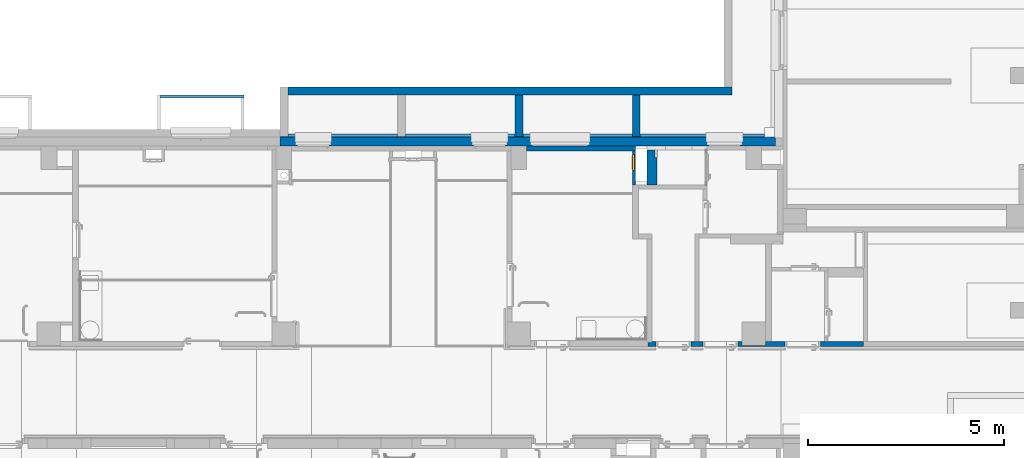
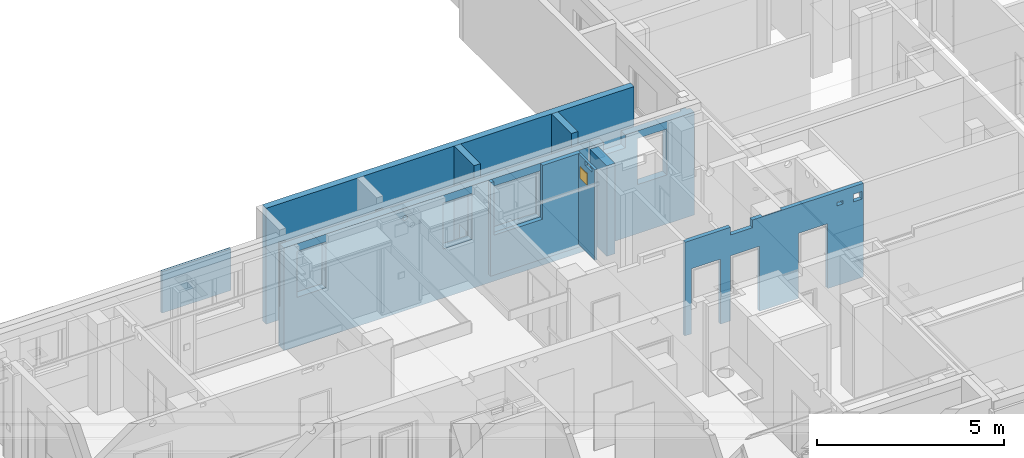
# One storey, part 27 of 84: 9 walls, 1 window, 18 openings.
"""IFC4 building model written with IfcOpenShell, lengths in metres."""

from ifc_helpers import new_model, entity, si_unit, converted_unit, derived_unit, frame, frame_2d, origin, origin_with_axes, place, context, subcontext, project, spatial, polyline, rectangle, outline, extrude, clip, bounded_halfspace, faceted_brep, source, transform, mapped, material, layer, layer_set, layer_usage, element, fill, save


model = new_model("IFC4")

# Units and contexts
model_context = context("Model", 3, precision=1e-05, world=origin())
body_context = subcontext(model_context, "Body", "Model", "MODEL_VIEW")
ifc_project = project(units=[si_unit("LENGTHUNIT", "METRE"), si_unit("AREAUNIT", "SQUARE_METRE"), si_unit("VOLUMEUNIT", "CUBIC_METRE"), si_unit("MASSUNIT", "GRAM", prefix="KILO"), converted_unit("PLANEANGLEUNIT", "DEGREE", entity("IfcPlaneAngleMeasure", 0.0174532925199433), si_unit("PLANEANGLEUNIT", "RADIAN"), dimensions=[0, 0, 0, 0, 0, 0, 0]), derived_unit("THERMALTRANSMITTANCEUNIT", [(si_unit("POWERUNIT", "WATT"), 1), (si_unit("THERMODYNAMICTEMPERATUREUNIT", "KELVIN"), -1), (si_unit("LENGTHUNIT", "METRE"), -2)]), derived_unit("VOLUMETRICFLOWRATEUNIT", [(si_unit("LENGTHUNIT", "METRE"), 3), (converted_unit("TIMEUNIT", "hour", entity("IfcTimeMeasure", 3600.0), si_unit("TIMEUNIT", "SECOND"), dimensions=[0, 0, 1, 0, 0, 0, 0]), -1), (si_unit("LENGTHUNIT", "METRE"), -1)])], contexts=[model_context])

# Site, building, storey
site_placement = place(None, origin())
site = spatial("IfcSite", under=ifc_project, at=site_placement, Name="3. ASŘ", CompositionType="ELEMENT")
building_placement = place(site_placement, origin())
building = spatial("IfcBuilding", under=site, at=building_placement, Name="Pavilon C", CompositionType="ELEMENT")
storey_placement = place(building_placement, frame((0.0, 0.0, -3.3)))
storey = spatial("IfcBuildingStorey", under=building, at=storey_placement, Name="Půdorys 1.PP", CompositionType="ELEMENT", Elevation=-3.3)

# Wall, opening
ifc_material_1 = material(Name="ZELEZOBETONOVÁ KCE")
ifc_layer_1 = layer(ifc_material_1, 0.2)
ifc_layer_set_1 = layer_set([ifc_layer_1])
ifc_layer_usage_1 = layer_usage(ifc_layer_set_1, "AXIS2", "POSITIVE", -0.1)
wall_1_placement = place(storey_placement, frame((18.1, 15.245, -0.4), z_axis=(0.0, 0.0, 1.0), x_axis=(0.0, 1.0, 0.0)))
wall_1 = element("IfcWall", 1, at=wall_1_placement, inside=storey, material=ifc_layer_usage_1, Name="ZELEZOBETONOVÁ KCE", context=body_context, shape_type="SweptSolid", body=[
    extrude(rectangle(XDim=1.06, YDim=0.2, at=frame_2d((0.53, 0.1), x_axis=(1.0, 0.0))), origin_with_axes(), (0.0, 0.0, 1.0), 3.78),
])
opening_1_placement = place(wall_1_placement, frame((0.780000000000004, 0.2, 0.8), z_axis=(0.0, -1.0, 0.0), x_axis=(0.0, 0.0, 1.0)))
element("IfcOpeningElement", 2, at=opening_1_placement, cuts=wall_1, Name="Prostup stěnou", ObjectType="Opening", context=body_context, shape_type="SweptSolid", body=[
    extrude(outline(polyline([(0.0, 0.4), (0.6, 0.4), (0.6, 0.0), (0.0, 0.0), (0.0, 0.4)])), origin_with_axes(), (0.0, 0.0, 1.0), 0.2),
])

# Wall
ifc_material_2 = material(Name="ZELEZOBETONOVÁ KCE")
ifc_layer_2 = layer(ifc_material_2, 0.2)
ifc_layer_set_2 = layer_set([ifc_layer_2])
ifc_layer_usage_2 = layer_usage(ifc_layer_set_2, "AXIS2", "POSITIVE", -0.1)
wall_2_placement = place(storey_placement, frame((21.1, 15.245, -0.4), z_axis=(0.0, 0.0, 1.0), x_axis=(0.0, 1.0, 0.0)))
element("IfcWall", 3, at=wall_2_placement, inside=storey, material=ifc_layer_usage_2, Name="ZELEZOBETONOVÁ KCE", context=body_context, shape_type="SweptSolid", body=[
    extrude(rectangle(XDim=1.06, YDim=0.2, at=frame_2d((0.53, 0.1), x_axis=(1.0, 0.0))), origin_with_axes(), (0.0, 0.0, 1.0), 3.78),
])

# Wall, openings
ifc_material_3 = material(Name="ZELEZOBETONOVÁ KCE")
ifc_layer_3 = layer(ifc_material_3, 0.200000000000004)
ifc_material_4 = material(Name="LIGNOPOR")
ifc_layer_4 = layer(ifc_material_4, 0.0249999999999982)
ifc_material_5 = material(Name="PÓROBETONOVÉ ZDIVO")
ifc_layer_5 = layer(ifc_material_5, 0.08)
ifc_layer_set_3 = layer_set([ifc_layer_3, ifc_layer_4, ifc_layer_5])
ifc_layer_usage_3 = layer_usage(ifc_layer_set_3, "AXIS2", "POSITIVE", 0.0)
wall_3_placement = place(storey_placement, frame((11.9, 15.0, -0.4), z_axis=(0.0, 0.0, 1.0), x_axis=(1.0, -1.43793628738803e-16, 0.0)))
wall_3 = element("IfcWall", 4, at=wall_3_placement, inside=storey, material=ifc_layer_usage_3, Name="ZELEZOBETONOVÁ KCE", context=body_context, shape_type="Clipping", body=[
    clip(clip(extrude(outline(polyline([(-2.61559086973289e-31, 1.81898940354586e-15), (12.65, 1.81898940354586e-15), (12.65, 0.200000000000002), (12.625, 0.200000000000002), (12.625, 0.225), (12.545, 0.225), (12.545, 0.305), (-4.38570567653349e-17, 0.305), (-2.61559086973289e-31, 1.81898940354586e-15)])), frame((2.61559086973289e-31, -1.81898940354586e-15, 0.0), z_axis=(0.0, 0.0, 1.0), x_axis=(1.0, 0.0, 0.0)), (0.0, 0.0, 1.0), 3.35), bounded_halfspace(frame((7.525, 0.214999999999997, 0.4), z_axis=(0.0, 0.0, 1.0), x_axis=(-1.0, -1.43793628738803e-16, 0.0)), True, origin_with_axes(), polyline([(12.625, 0.224999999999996), (12.375, 0.224999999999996), (-3.23535664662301e-17, 0.224999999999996), (-2.87587257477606e-17, 0.2), (12.625, 0.199999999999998), (12.625, 0.224999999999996)]))), bounded_halfspace(frame((5.46388888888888, 0.269444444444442, 1.3), z_axis=(0.0, 0.0, -1.0), x_axis=(-1.43793628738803e-16, 1.0, 0.0)), True, origin_with_axes(), polyline([(12.375, 0.224999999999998), (12.375, 0.304999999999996), (9.2, 0.304999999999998), (9.2, 0.244999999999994), (9.0, 0.244999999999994), (9.0, 0.304999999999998), (6.19999999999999, 0.304999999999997), (6.19999999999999, 0.244999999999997), (5.99999999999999, 0.244999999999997), (5.99999999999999, 0.304999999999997), (3.2, 0.304999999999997), (3.2, 0.244999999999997), (3.0, 0.244999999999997), (3.0, 0.304999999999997), (0.2, 0.304999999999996), (0.2, 0.244999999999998), (-3.52294390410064e-17, 0.244999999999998), (-3.23535664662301e-17, 0.224999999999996), (12.375, 0.224999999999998)]))),
])
opening_2_placement = place(wall_3_placement, frame((1.3, 0.2, 1.6), z_axis=(0.0, -1.0, 0.0), x_axis=(0.0, 0.0, 1.0)))
element("IfcOpeningElement", 5, at=opening_2_placement, cuts=wall_3, Name="Okenní otvor", ObjectType="Opening", context=body_context, shape_type="SweptSolid", body=[
    extrude(outline(polyline([(0.0, 0.9), (1.5, 0.9), (1.5, 0.0), (0.0, 0.0), (0.0, 0.9)])), origin_with_axes(), (0.0, 0.0, 1.0), 0.2),
    extrude(outline(polyline([(0.0, 0.9), (1.5, 0.9), (1.5, 0.0), (0.0, 0.0), (0.0, 0.9)])), frame((0.0, 0.0, -0.0249999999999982), z_axis=(0.0, 0.0, 1.0), x_axis=(1.0, 0.0, 0.0)), (0.0, 0.0, 1.0), 0.0249999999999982),
    extrude(outline(polyline([(0.0, 0.9), (1.5, 0.9), (1.5, 0.0), (0.0, 0.0), (0.0, 0.9)])), frame((0.0, 0.0, -0.104999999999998), z_axis=(0.0, 0.0, 1.0), x_axis=(1.0, 0.0, 0.0)), (0.0, 0.0, 1.0), 0.08),
])
opening_3_placement = place(wall_3_placement, frame((5.8, 0.200000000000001, 1.6), z_axis=(0.0, -1.0, 0.0), x_axis=(0.0, 0.0, 1.0)))
element("IfcOpeningElement", 6, at=opening_3_placement, cuts=wall_3, Name="Okenní otvor", ObjectType="Opening", context=body_context, shape_type="SweptSolid", body=[
    extrude(outline(polyline([(0.0, 0.9), (1.5, 0.9), (1.5, 0.0), (0.0, 0.0), (0.0, 0.9)])), origin_with_axes(), (0.0, 0.0, 1.0), 0.2),
    extrude(outline(polyline([(0.0, 0.9), (1.5, 0.9), (1.5, 0.0), (0.0, 0.0), (0.0, 0.9)])), frame((0.0, 0.0, -0.0249999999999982), z_axis=(0.0, 0.0, 1.0), x_axis=(1.0, 0.0, 0.0)), (0.0, 0.0, 1.0), 0.0249999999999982),
    extrude(outline(polyline([(0.0, 0.9), (1.5, 0.9), (1.5, 0.0), (0.0, 0.0), (0.0, 0.9)])), frame((0.0, 0.0, -0.104999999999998), z_axis=(0.0, 0.0, 1.0), x_axis=(1.0, 0.0, 0.0)), (0.0, 0.0, 1.0), 0.08),
])
opening_4_placement = place(wall_3_placement, frame((7.9, 0.199999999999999, 1.6), z_axis=(0.0, -1.0, 0.0), x_axis=(0.0, 0.0, 1.0)))
element("IfcOpeningElement", 7, at=opening_4_placement, cuts=wall_3, Name="Okenní otvor", ObjectType="Opening", context=body_context, shape_type="SweptSolid", body=[
    extrude(outline(polyline([(0.0, 1.5), (1.5, 1.5), (1.5, 0.0), (0.0, 0.0), (0.0, 1.5)])), origin_with_axes(), (0.0, 0.0, 1.0), 0.2),
    extrude(outline(polyline([(0.0, 1.5), (1.5, 1.5), (1.5, 0.0), (0.0, 0.0), (0.0, 1.5)])), frame((0.0, 0.0, -0.0249999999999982), z_axis=(0.0, 0.0, 1.0), x_axis=(1.0, 0.0, 0.0)), (0.0, 0.0, 1.0), 0.0249999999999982),
    extrude(outline(polyline([(0.0, 1.5), (1.5, 1.5), (1.5, 0.0), (0.0, 0.0), (0.0, 1.5)])), frame((0.0, 0.0, -0.104999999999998), z_axis=(0.0, 0.0, 1.0), x_axis=(1.0, 0.0, 0.0)), (0.0, 0.0, 1.0), 0.08),
])
opening_5_placement = place(wall_3_placement, frame((3.81189706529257, 0.304999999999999, 2.95), z_axis=(0.0, -1.0, 0.0), x_axis=(0.0, 0.0, 1.0)))
element("IfcOpeningElement", 8, at=opening_5_placement, cuts=wall_3, Name="Prostup stěnou", ObjectType="Opening", context=body_context, shape_type="SweptSolid", body=[
    extrude(outline(polyline([(0.0749999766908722, 0.15), (0.0828396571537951, 0.14958913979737), (0.0905933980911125, 0.148361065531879), (0.0981762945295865, 0.146329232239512), (0.105505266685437, 0.14351590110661), (0.112500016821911, 0.139951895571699), (0.119083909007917, 0.135676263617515), (0.125184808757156, 0.13073584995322), (0.130735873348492, 0.125184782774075), (0.135676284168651, 0.119083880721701), (0.13995191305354, 0.112499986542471), (0.143515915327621, 0.105505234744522), (0.146329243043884, 0.0981762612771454), (0.148361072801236, 0.0905933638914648), (0.149589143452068, 0.0828396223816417), (0.149999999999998, 0.0749999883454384), (0.149589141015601, 0.0671603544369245), (0.148361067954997, 0.0594066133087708), (0.146329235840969, 0.0518237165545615), (0.143515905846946, 0.0444947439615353), (0.139951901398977, 0.0374999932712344), (0.135676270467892, 0.0309161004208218), (0.130735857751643, 0.024815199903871), (0.1251847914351, 0.0192641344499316), (0.119083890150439, 0.0143237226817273), (0.112499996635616, 0.0100480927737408), (0.105505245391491, 0.00648408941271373), (0.0981762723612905, 0.00367076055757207), (0.0905933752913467, 0.0016389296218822), (0.0828396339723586, 0.000410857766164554), (0.0749999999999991, 0.0), (0.0671603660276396, 0.000410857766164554), (0.0594066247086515, 0.0016389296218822), (0.0518237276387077, 0.00367076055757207), (0.044494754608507, 0.00648408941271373), (0.0375000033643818, 0.0100480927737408), (0.0309161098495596, 0.0143237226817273), (0.0248152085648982, 0.0192641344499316), (0.0192641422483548, 0.024815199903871), (0.0143237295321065, 0.0309161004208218), (0.010048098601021, 0.0374999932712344), (0.00648409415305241, 0.0444947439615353), (0.00367076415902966, 0.0518237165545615), (0.00163893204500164, 0.0594066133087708), (0.000410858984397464, 0.0671603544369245), (0.0, 0.0749999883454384), (0.000410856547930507, 0.0828396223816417), (0.00163892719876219, 0.0905933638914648), (0.00367075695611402, 0.0981762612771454), (0.00648408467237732, 0.105505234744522), (0.0100480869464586, 0.112499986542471), (0.0143237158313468, 0.119083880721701), (0.0192641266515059, 0.125184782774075), (0.0248151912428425, 0.13073584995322), (0.0309160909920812, 0.135676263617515), (0.0374999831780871, 0.139951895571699), (0.0444947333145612, 0.14351590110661), (0.0518237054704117, 0.146329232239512), (0.0594066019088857, 0.148361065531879), (0.0671603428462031, 0.14958913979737), (0.0749999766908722, 0.15)])), origin_with_axes(), (0.0, 0.0, 1.0), 0.08),
    extrude(outline(polyline([(0.0749999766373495, 0.15), (0.0828396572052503, 0.149589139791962), (0.0905933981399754, 0.148361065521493), (0.0981762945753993, 0.146329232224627), (0.105505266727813, 0.143515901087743), (0.112500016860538, 0.139951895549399), (0.119083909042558, 0.135676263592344), (0.12518480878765, 0.130735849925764), (0.130735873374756, 0.125184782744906), (0.135676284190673, 0.119083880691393), (0.13995191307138, 0.112499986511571), (0.143515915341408, 0.105505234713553), (0.146329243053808, 0.0981762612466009), (0.148361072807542, 0.0905933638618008), (0.149589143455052, 0.0828396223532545), (0.149999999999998, 0.0749999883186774), (0.14958914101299, 0.0671603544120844), (0.148361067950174, 0.0594066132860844), (0.146329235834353, 0.0518237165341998), (0.143515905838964, 0.0444947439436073), (0.139951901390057, 0.0374999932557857), (0.135676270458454, 0.0309161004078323), (0.130735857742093, 0.0248151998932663), (0.125184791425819, 0.0192641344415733), (0.119083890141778, 0.0143237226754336), (0.112499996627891, 0.0100480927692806), (0.105505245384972, 0.00648408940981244), (0.0981762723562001, 0.0036707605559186), (0.0905933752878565, 0.00163892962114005), (0.0828396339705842, 0.000410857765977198), (0.0749999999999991, 0.0), (0.067160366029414, 0.000410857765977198), (0.0594066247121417, 0.00163892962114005), (0.0518237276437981, 0.0036707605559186), (0.0444947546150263, 0.00648408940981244), (0.0375000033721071, 0.0100480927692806), (0.0309161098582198, 0.0143237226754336), (0.0248152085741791, 0.0192641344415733), (0.0192641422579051, 0.0248151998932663), (0.0143237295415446, 0.0309161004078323), (0.0100480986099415, 0.0374999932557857), (0.00648409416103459, 0.0444947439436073), (0.00367076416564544, 0.0518237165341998), (0.00163893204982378, 0.0594066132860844), (0.000410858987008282, 0.0671603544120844), (0.0, 0.0749999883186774), (0.000410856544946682, 0.0828396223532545), (0.00163892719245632, 0.0905933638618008), (0.00367075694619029, 0.0981762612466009), (0.00648408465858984, 0.105505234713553), (0.0100480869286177, 0.112499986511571), (0.0143237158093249, 0.119083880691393), (0.0192641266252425, 0.125184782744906), (0.0248151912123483, 0.130735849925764), (0.0309160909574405, 0.135676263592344), (0.0374999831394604, 0.139951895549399), (0.0444947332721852, 0.143515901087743), (0.0518237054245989, 0.146329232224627), (0.0594066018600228, 0.148361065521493), (0.0671603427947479, 0.149589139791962), (0.0749999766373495, 0.15)])), frame((0.0, 0.0, 0.08), z_axis=(0.0, 0.0, 1.0), x_axis=(1.0, 0.0, 0.0)), (0.0, 0.0, 1.0), 0.0249999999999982),
    extrude(outline(polyline([(0.0749999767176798, 0.15), (0.0828396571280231, 0.149589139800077), (0.0905933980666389, 0.148361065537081), (0.0981762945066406, 0.146329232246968), (0.105505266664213, 0.143515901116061), (0.112500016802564, 0.139951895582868), (0.119083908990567, 0.135676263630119), (0.125184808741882, 0.130735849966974), (0.130735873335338, 0.125184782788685), (0.135676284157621, 0.119083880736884), (0.139951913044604, 0.112499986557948), (0.143515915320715, 0.105505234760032), (0.146329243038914, 0.0981762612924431), (0.148361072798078, 0.0905933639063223), (0.149589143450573, 0.0828396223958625), (0.149999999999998, 0.0749999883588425), (0.149589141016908, 0.0671603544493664), (0.148361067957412, 0.0594066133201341), (0.146329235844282, 0.0518237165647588), (0.143515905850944, 0.0444947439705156), (0.139951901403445, 0.0374999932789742), (0.135676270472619, 0.0309161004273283), (0.130735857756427, 0.0248151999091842), (0.125184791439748, 0.0192641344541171), (0.119083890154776, 0.0143237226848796), (0.112499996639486, 0.0100480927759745), (0.105505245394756, 0.00648408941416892), (0.09817627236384, 0.00367076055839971), (0.0905933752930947, 0.00163892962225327), (0.0828396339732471, 0.000410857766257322), (0.0749999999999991, 0.0), (0.067160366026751, 0.000410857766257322), (0.0594066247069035, 0.00163892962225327), (0.0518237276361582, 0.00367076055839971), (0.0444947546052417, 0.00648408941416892), (0.0375000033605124, 0.0100480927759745), (0.0309161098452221, 0.0143237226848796), (0.0248152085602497, 0.0192641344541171), (0.0192641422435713, 0.0248151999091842), (0.0143237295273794, 0.0309161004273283), (0.0100480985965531, 0.0374999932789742), (0.00648409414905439, 0.0444947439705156), (0.00367076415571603, 0.0518237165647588), (0.00163893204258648, 0.0594066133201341), (0.000410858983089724, 0.0671603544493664), (0.0, 0.0749999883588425), (0.000410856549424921, 0.0828396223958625), (0.00163892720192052, 0.0905933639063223), (0.00367075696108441, 0.0981762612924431), (0.00648408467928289, 0.105505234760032), (0.0100480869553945, 0.112499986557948), (0.0143237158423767, 0.119083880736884), (0.0192641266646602, 0.125184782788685), (0.024815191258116, 0.130735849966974), (0.0309160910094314, 0.135676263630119), (0.0374999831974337, 0.139951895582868), (0.0444947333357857, 0.143515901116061), (0.0518237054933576, 0.146329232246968), (0.0594066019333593, 0.148361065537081), (0.0671603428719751, 0.149589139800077), (0.0749999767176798, 0.15)])), frame((0.0, 0.0, 0.104999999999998), z_axis=(0.0, 0.0, 1.0), x_axis=(1.0, 0.0, 0.0)), (0.0, 0.0, 1.0), 0.2),
])
opening_6_placement = place(wall_3_placement, frame((11.8, 0.200000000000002, 1.6), z_axis=(0.0, -1.0, 0.0), x_axis=(0.0, 0.0, 1.0)))
element("IfcOpeningElement", 9, at=opening_6_placement, cuts=wall_3, Name="Okenní otvor", ObjectType="Opening", context=body_context, shape_type="SweptSolid", body=[
    extrude(outline(polyline([(0.0, 0.9), (1.5, 0.9), (1.5, 0.0), (0.0, 0.0), (0.0, 0.9)])), origin_with_axes(), (0.0, 0.0, 1.0), 0.2),
    extrude(outline(polyline([(0.0, 0.9), (1.5, 0.9), (1.5, 0.0), (0.0, 0.0), (0.0, 0.9)])), frame((0.0, 0.0, -0.0249999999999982), z_axis=(0.0, 0.0, 1.0), x_axis=(1.0, 0.0, 0.0)), (0.0, 0.0, 1.0), 0.0249999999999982),
    extrude(outline(polyline([(0.0, 0.9), (1.5, 0.9), (1.5, 0.0), (0.0, 0.0), (0.0, 0.9)])), frame((0.0, 0.0, -0.104999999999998), z_axis=(0.0, 0.0, 1.0), x_axis=(1.0, 0.0, 0.0)), (0.0, 0.0, 1.0), 0.08),
])
opening_7_placement = place(wall_3_placement, frame((10.5232682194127, 0.304999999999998, 2.925), z_axis=(0.0, -1.0, 0.0), x_axis=(0.0, 0.0, 1.0)))
element("IfcOpeningElement", 10, at=opening_7_placement, cuts=wall_3, Name="Prostup stěnou", ObjectType="Opening", context=body_context, shape_type="SweptSolid", body=[
    extrude(outline(polyline([(0.0, 0.68), (0.425, 0.68), (0.425, 0.0), (0.0, 0.0), (0.0, 0.68)])), origin_with_axes(), (0.0, 0.0, 1.0), 0.08),
    extrude(outline(polyline([(0.0, 0.68), (0.425, 0.68), (0.425, 0.0), (0.0, 0.0), (0.0, 0.68)])), frame((0.0, 0.0, 0.08), z_axis=(0.0, 0.0, 1.0), x_axis=(1.0, 0.0, 0.0)), (0.0, 0.0, 1.0), 0.0249999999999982),
    extrude(outline(polyline([(0.0, 0.68), (0.425, 0.68), (0.425, 0.0), (0.0, 0.0), (0.0, 0.68)])), frame((0.0, 0.0, 0.104999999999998), z_axis=(0.0, 0.0, 1.0), x_axis=(1.0, 0.0, 0.0)), (0.0, 0.0, 1.0), 0.2),
])

# Wall, opening
ifc_material_6 = material(Name="ZDIVO Z CDm")
ifc_layer_6 = layer(ifc_material_6, 0.125)
ifc_layer_set_4 = layer_set([ifc_layer_6])
ifc_layer_usage_4 = layer_usage(ifc_layer_set_4, "AXIS2", "POSITIVE", 0.0)
wall_4_placement = place(storey_placement, frame((20.975, 15.0, -0.1), z_axis=(0.0, 0.0, 1.0), x_axis=(-1.0, 0.0, 0.0)))
wall_4 = element("IfcWall", 11, at=wall_4_placement, inside=storey, material=ifc_layer_usage_4, Name="ZDIVO Z CDm", context=body_context, shape_type="SweptSolid", body=[
    extrude(rectangle(XDim=2.775, YDim=0.125, at=frame_2d((1.3875, 0.0625), x_axis=(1.0, 0.0))), origin_with_axes(), (0.0, 0.0, 1.0), 3.05),
])
opening_8_placement = place(wall_4_placement, frame((2.675, 0.125, 1.3), z_axis=(0.0, -1.0, 0.0), x_axis=(0.0, 0.0, 1.0)))
element("IfcOpeningElement", 12, at=opening_8_placement, cuts=wall_4, Name="Okenní otvor", ObjectType="Opening", context=body_context, shape_type="SweptSolid", body=[
    extrude(outline(polyline([(0.0, 1.5), (1.75, 1.5), (1.75, 0.0), (0.0, 0.0), (0.0, 1.5)])), origin_with_axes(), (0.0, 0.0, 1.0), 0.125),
])

# Walls
ifc_material_7 = material(Name="ZELEZOBETONOVÁ KCE")
ifc_layer_7 = layer(ifc_material_7, 0.2)
ifc_layer_set_5 = layer_set([ifc_layer_7])
ifc_layer_usage_5 = layer_usage(ifc_layer_set_5, "AXIS2", "POSITIVE", 0.0)
wall_5_placement = place(storey_placement, frame((12.1, 16.305, -0.4), z_axis=(0.0, 0.0, 1.0), x_axis=(1.0, -3.20668030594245e-16, 0.0)))
element("IfcWall", 13, at=wall_5_placement, inside=storey, material=ifc_layer_usage_5, Name="ZELEZOBETONOVÁ KCE", context=body_context, shape_type="SweptSolid", body=[
    extrude(rectangle(XDim=11.345, YDim=0.2, at=frame_2d((5.6725, 0.1), x_axis=(1.0, 0.0))), origin_with_axes(), (0.0, 0.0, 1.0), 3.78),
])
ifc_material_8 = material(Name="POHLEDOVY BETON")
ifc_layer_8 = layer(ifc_material_8, 0.08)
ifc_layer_set_6 = layer_set([ifc_layer_8])
ifc_layer_usage_6 = layer_usage(ifc_layer_set_6, "AXIS2", "POSITIVE", 0.0)
wall_6_placement = place(storey_placement, frame((10.98, 16.305, 1.15), z_axis=(0.0, 0.0, 1.0), x_axis=(-1.0, 0.0, 0.0)))
element("IfcWall", 14, at=wall_6_placement, inside=storey, material=ifc_layer_usage_6, Name="STĚNA ANGLICKÉHO DVORKU", context=body_context, shape_type="SweptSolid", body=[
    extrude(rectangle(XDim=2.13, YDim=0.08, at=frame_2d((1.065, 0.04), x_axis=(1.0, 0.0))), origin_with_axes(), (0.0, 0.0, 1.0), 1.35),
])

# Wall, opening
ifc_material_9 = material(Name="SDK - 2 KCE + DVOJITÉ OPLÁŠTĚNÍ")
ifc_layer_9 = layer(ifc_material_9, 0.25)
ifc_layer_set_7 = layer_set([ifc_layer_9])
ifc_layer_usage_7 = layer_usage(ifc_layer_set_7, "AXIS2", "POSITIVE", 0.0)
wall_7_placement = place(storey_placement, frame((21.275, 14.9, 0.0), z_axis=(0.0, 0.0, 1.0), x_axis=(0.0, -1.0, 0.0)))
wall_7 = element("IfcWall", 15, at=wall_7_placement, inside=storey, material=ifc_layer_usage_7, Name="SDK - 2 KCE + DVOJITÉ OPLÁŠTĚNÍ", context=body_context, shape_type="SweptSolid", body=[
    extrude(rectangle(XDim=0.9, YDim=0.25, at=frame_2d((0.45, 0.125), x_axis=(1.0, 0.0))), origin_with_axes(), (0.0, 0.0, 1.0), 2.95),
])
opening_9_placement = place(wall_7_placement, frame((0.200000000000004, 0.25, 1.0), z_axis=(0.0, -1.0, 0.0), x_axis=(0.0, 0.0, 1.0)))
element("IfcOpeningElement", 16, at=opening_9_placement, cuts=wall_7, Name="Stěnová nika", ObjectType="Opening", context=body_context, shape_type="SweptSolid", body=[
    extrude(outline(polyline([(0.0, 0.200000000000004), (0.2, 0.200000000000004), (0.2, 0.0), (0.0, 0.0), (0.0, 0.200000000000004)])), origin_with_axes(), (0.0, 0.0, 1.0), 0.05),
])

# Wall, openings, window
ifc_material_10 = material(Name="SDK ŠACHTOVÁ STĚNA/SDK OPL. S PO")
ifc_layer_10 = layer(ifc_material_10, 0.075)
ifc_layer_set_8 = layer_set([ifc_layer_10])
ifc_layer_usage_8 = layer_usage(ifc_layer_set_8, "AXIS2", "POSITIVE", 0.0)
wall_8_placement = place(storey_placement, frame((20.975, 14.0, 0.0), z_axis=(0.0, 0.0, 1.0), x_axis=(0.0, 1.0, 0.0)))
wall_8 = element("IfcWall", 17, at=wall_8_placement, inside=storey, material=ifc_layer_usage_8, Name="SDK ŠACHTOVÁ STĚNA/SDK OPL. S PO", context=body_context, shape_type="SweptSolid", body=[
    extrude(rectangle(XDim=0.875000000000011, YDim=0.075, at=frame_2d((0.437500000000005, 0.0375), x_axis=(1.0, 0.0))), origin_with_axes(), (0.0, 0.0, 1.0), 2.95),
])
opening_10_placement = place(wall_8_placement, frame((0.775000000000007, 0.075, 2.2), z_axis=(0.0, -1.0, 0.0), x_axis=(0.0, 0.0, 1.0)))
opening_10 = element("IfcOpeningElement", 18, at=opening_10_placement, cuts=wall_8, Name="Okenní otvor", ObjectType="Opening", context=body_context, shape_type="SweptSolid", body=[
    extrude(outline(polyline([(0.0, 0.4), (0.4, 0.4), (0.4, 0.0), (0.0, 0.0), (0.0, 0.4)])), origin_with_axes(), (0.0, 0.0, 1.0), 0.075),
])
opening_11_placement = place(wall_8_placement, frame((0.514106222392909, 0.075, 2.78), z_axis=(0.0, -1.0, 0.0), x_axis=(0.0, 0.0, 1.0)))
element("IfcOpeningElement", 19, at=opening_11_placement, cuts=wall_8, Name="ZTI", ObjectType="Opening", context=body_context, shape_type="SweptSolid", body=[
    extrude(outline(polyline([(0.0, 0.37), (0.15, 0.37), (0.15, 0.0), (0.0, 0.0), (0.0, 0.37)])), origin_with_axes(), (0.0, 0.0, 1.0), 0.075),
])
shared_shape = source(origin_with_axes(), body_context, "Body", "Brep", [
    faceted_brep([(0.0, 0.06, 0.4), (0.0, 0.06, 4.91096680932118e-19), (0.02, 0.06, 4.91096680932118e-19), (0.02, 0.06, 0.4), (0.0, 0.01, 6.61433067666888e-18), (0.0, 0.0100000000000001, 0.4), (0.02, 0.0100000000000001, 0.4), (0.02, 0.01, 6.61433067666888e-18)], [[[0, 1, 2, 3]], [[4, 5, 6, 7]], [[1, 0, 5, 4]], [[2, 1, 4, 7]], [[3, 2, 7, 6]], [[0, 3, 6, 5]]], orient=[[False], [False], [False], [False], [False], [False]]),
    faceted_brep([(0.38, 0.06, 0.4), (0.38, 0.06, 4.91096680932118e-19), (0.4, 0.06, 4.91096680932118e-19), (0.4, 0.06, 0.4), (0.38, 0.01, 6.61433067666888e-18), (0.38, 0.0100000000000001, 0.4), (0.4, 0.0100000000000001, 0.4), (0.4, 0.01, 6.61433067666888e-18)], [[[0, 1, 2, 3]], [[4, 5, 6, 7]], [[1, 0, 5, 4]], [[2, 1, 4, 7]], [[3, 2, 7, 6]], [[0, 3, 6, 5]]], orient=[[False], [False], [False], [False], [False], [False]]),
    faceted_brep([(0.02, 0.06, 0.02), (0.02, 0.06, 4.91096680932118e-19), (0.38, 0.06, 4.91096680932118e-19), (0.38, 0.06, 0.02), (0.02, 0.01, 6.61433067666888e-18), (0.02, 0.01, 0.02), (0.38, 0.01, 0.02), (0.38, 0.01, 6.61433067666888e-18)], [[[0, 1, 2, 3]], [[4, 5, 6, 7]], [[1, 0, 5, 4]], [[2, 1, 4, 7]], [[3, 2, 7, 6]], [[0, 3, 6, 5]]], orient=[[False], [False], [False], [False], [False], [False]]),
    faceted_brep([(0.02, 0.06, 0.4), (0.02, 0.06, 0.38), (0.38, 0.06, 0.38), (0.38, 0.06, 0.4), (0.02, 0.0100000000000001, 0.38), (0.02, 0.0100000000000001, 0.4), (0.38, 0.0100000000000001, 0.4), (0.38, 0.0100000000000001, 0.38)], [[[0, 1, 2, 3]], [[4, 5, 6, 7]], [[1, 0, 5, 4]], [[2, 1, 4, 7]], [[3, 2, 7, 6]], [[0, 3, 6, 5]]], orient=[[False], [False], [False], [False], [False], [False]]),
    faceted_brep([(0.02, 0.01, 0.38), (0.02, 0.01, 0.02), (0.38, 0.01, 0.02), (0.38, 0.01, 0.38), (0.02, 0.0, 0.02), (0.02, 4.44089209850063e-17, 0.38), (0.38, 4.44089209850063e-17, 0.38), (0.38, 0.0, 0.02)], [[[0, 1, 2, 3]], [[4, 5, 6, 7]], [[1, 0, 5, 4]], [[2, 1, 4, 7]], [[3, 2, 7, 6]], [[0, 3, 6, 5]]], orient=[[False], [False], [False], [False], [False], [False]]),
])
window_placement = place(opening_10_placement, frame((0.0, 3.63797880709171e-15, -0.0100000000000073), z_axis=(1.0, 0.0, 0.0), x_axis=(0.0, 1.0, 1.22464679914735e-16)))
window = element("IfcWindow", 20, at=window_placement, inside=storey, OverallHeight=0.4, OverallWidth=0.4, PartitioningType="USERDEFINED", PredefinedType="WINDOW", context=body_context, shape_type="MappedRepresentation", body=[
    mapped(shared_shape, transform((0.0, 0.0, 0.0), x_axis=(1.0, 0.0, 0.0), y_axis=(0.0, 1.0, 0.0), z_axis=(0.0, 0.0, 1.0), scale=1.0)),
])
fill(opening_10, window)

# Wall, openings
ifc_material_11 = material(Name="SDK - 1 KCE + DVOJITÉ OPLÁŠTĚNÍ")
ifc_layer_11 = layer(ifc_material_11, 0.125)
ifc_layer_set_9 = layer_set([ifc_layer_11])
ifc_layer_usage_9 = layer_usage(ifc_layer_set_9, "AXIS2", "POSITIVE", 0.0)
wall_9_placement = place(storey_placement, frame((21.3, 9.875, -0.1)))
wall_9 = element("IfcWall", 21, at=wall_9_placement, inside=storey, material=ifc_layer_usage_9, Name="SDK - 1 KCE + DVOJITÉ OPLÁŠTĚNÍ", context=body_context, shape_type="SweptSolid", body=[
    extrude(outline(polyline([(0.0, 0.0), (5.5, 0.0), (5.5, 0.125), (0.1, 0.125), (0.1, 0.1), (0.0, 0.1), (0.0, 0.0)])), origin_with_axes(), (0.0, 0.0, 1.0), 3.05),
])
opening_12_placement = place(wall_9_placement, frame((4.4, 0.125, 0.0), z_axis=(0.0, -1.0, 0.0), x_axis=(0.0, 0.0, 1.0)))
element("IfcOpeningElement", 22, at=opening_12_placement, cuts=wall_9, Name="Dveřní otvor", ObjectType="Opening", context=body_context, shape_type="SweptSolid", body=[
    extrude(outline(polyline([(0.0, 0.9), (2.12, 0.9), (2.12, 0.0), (0.0, 0.0), (0.0, 0.9)])), origin_with_axes(), (0.0, 0.0, 1.0), 0.125),
])
opening_13_placement = place(wall_9_placement, frame((1.1, 0.125, 0.0), z_axis=(0.0, -1.0, 0.0), x_axis=(0.0, 0.0, 1.0)))
element("IfcOpeningElement", 23, at=opening_13_placement, cuts=wall_9, Name="Dveřní otvor", ObjectType="Opening", context=body_context, shape_type="SweptSolid", body=[
    extrude(outline(polyline([(0.0, 0.9), (2.12, 0.9), (2.12, 0.0), (0.0, 0.0), (0.0, 0.9)])), origin_with_axes(), (0.0, 0.0, 1.0), 0.125),
])
opening_14_placement = place(wall_9_placement, frame((2.3, 0.125, 0.0), z_axis=(0.0, -1.0, 0.0), x_axis=(0.0, 0.0, 1.0)))
element("IfcOpeningElement", 24, at=opening_14_placement, cuts=wall_9, Name="Dveřní otvor", ObjectType="Opening", context=body_context, shape_type="SweptSolid", body=[
    extrude(outline(polyline([(0.0, 0.9), (2.12, 0.9), (2.12, 0.0), (0.0, 0.0), (0.0, 0.9)])), origin_with_axes(), (0.0, 0.0, 1.0), 0.125),
])
opening_15_placement = place(wall_9_placement, frame((3.0, 0.125, 0.0), z_axis=(0.0, -1.0, 0.0), x_axis=(0.0, 0.0, 1.0)))
element("IfcOpeningElement", 25, at=opening_15_placement, cuts=wall_9, Name="Prostup stěnou", ObjectType="Opening", context=body_context, shape_type="SweptSolid", body=[
    extrude(outline(polyline([(0.0, 0.6), (3.05, 0.6), (3.05, 0.0), (0.0, 0.0), (0.0, 0.6)])), origin_with_axes(), (0.0, 0.0, 1.0), 0.1),
])
opening_16_placement = place(wall_9_placement, frame((2.08068477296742, 0.124999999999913, 2.8), z_axis=(0.0, -1.0, 0.0), x_axis=(0.0, 0.0, 1.0)))
element("IfcOpeningElement", 26, at=opening_16_placement, cuts=wall_9, Name="VZT", ObjectType="Opening", context=body_context, shape_type="SweptSolid", body=[
    extrude(outline(polyline([(0.0, 0.68), (0.25, 0.68), (0.25, 0.0), (0.0, 0.0), (0.0, 0.68)])), origin_with_axes(), (0.0, 0.0, 1.0), 0.125),
])
opening_17_placement = place(wall_9_placement, frame((5.19253208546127, 0.0, 2.55), z_axis=(0.0, 1.0, 0.0), x_axis=(0.0, 0.0, 1.0)))
element("IfcOpeningElement", 27, at=opening_17_placement, cuts=wall_9, Name="VZT", ObjectType="Opening", context=body_context, shape_type="SweptSolid", body=[
    extrude(outline(polyline([(0.0, 0.26), (0.25, 0.26), (0.25, 0.0), (0.0, 0.0), (0.0, 0.26)])), origin_with_axes(), (0.0, 0.0, 1.0), 0.125),
])
opening_18_placement = place(wall_9_placement, frame((4.68841099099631, 0.0, 2.6), z_axis=(0.0, 1.0, 0.0), x_axis=(0.0, 0.0, 1.0)))
element("IfcOpeningElement", 28, at=opening_18_placement, cuts=wall_9, Name="ZTI", ObjectType="Opening", context=body_context, shape_type="SweptSolid", body=[
    extrude(outline(polyline([(0.0, 0.175), (0.11, 0.175), (0.11, 0.0), (0.0, 0.0), (0.0, 0.175)])), origin_with_axes(), (0.0, 0.0, 1.0), 0.125),
])

save(model, "model.ifc")
